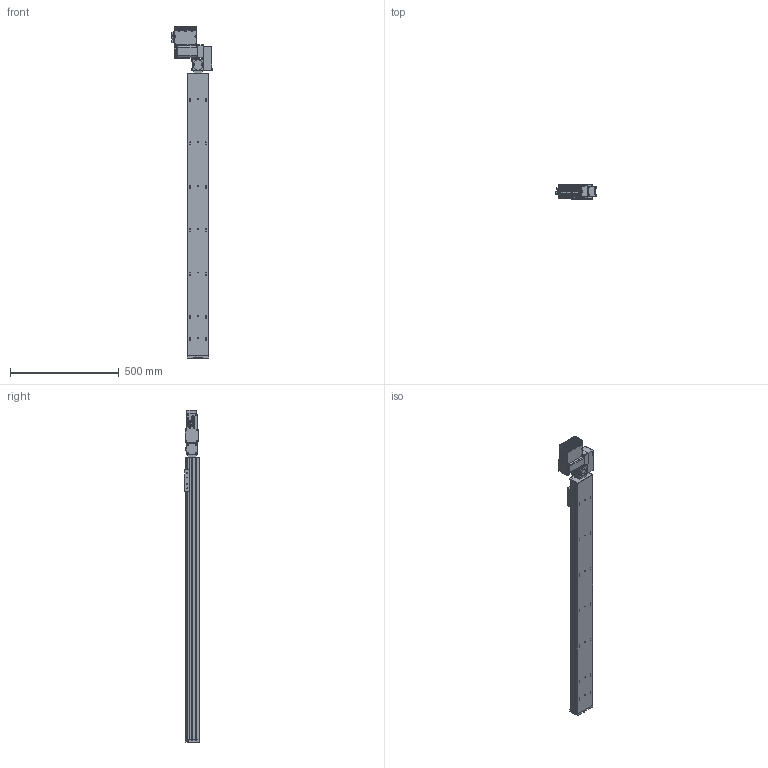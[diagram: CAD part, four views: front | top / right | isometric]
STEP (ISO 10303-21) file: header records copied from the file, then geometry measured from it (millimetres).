
FILE_DESCRIPTION (( 'STEP AP203' ), '1' );
FILE_NAME ('S10 TBN RH S1300.STEP', '2012-06-18T09:24:49', ( 'Conseil Régional Haute-Normandie' ), ( 'Conseil Régional Haute-Normandie' ), 'SwSTEP 2.0', 'SolidWorks 2010', '' );
FILE_SCHEMA (( 'CONFIG_CONTROL_DESIGN' ));
Length unit declared in the file: millimetre
Products named in the file (30): palette tbn; renvoi LH_Default; vis M5 L12_Default; vis M5 L5_Default; BU41 Carte Alimentation P05_3; Colonnette_3; Connecteur rond D10 3cts_5; Connecteur rond D12 4cts_5; Sub D 9cts 90_X2_00B_X0__3; Vis TF 3 torkx_1_1; Vis TF 3 torkx; S10 TBN RH S1300; axe 1300; embout; cache t皻e axe_Default; cache t皻e_Default; plaque de bout s10_Default; Plaque racord_Default; Cvis M5 L30_Default; Vis M5 L16-2_Default_1; Assem1_7; T_X2_00F4_X0_le contre le moteur_5; BU45 Carte d''axe A11_5; Moteur 60BLDC90A_3; Couvercle_3; T_X2_00F4_X0_le fond_3; Radiateur profil_X2_00E9_X0_ 100x25_3; Colonnette ronde_3; T_X2_00F4_X0_le Arri_X2_00E8_X0_re_5; T_X2_00F4_X0_le lat_X2_00E9_X0_rale_5
Assembly tree (69 placements, depth 3):
  S10 TBN RH S1300
    vis M5 L5_Default  x4
    Vis M5 L16-2_Default_1  x4
    Vis TF 3 torkx  x7
    cache t皻e_Default  x2
    vis M5 L12_Default  x4
    Cvis M5 L30_Default  x2
    axe 1300
    plaque de bout s10_Default
    Plaque racord_Default
    Assem1_7
      BU45 Carte d''axe A11_5
      Connecteur rond D12 4cts_5
      Sub D 9cts 90_X2_00B_X0__3
      Vis TF 3 torkx_1_1  x21
      Colonnette_3  x2
      Moteur 60BLDC90A_3
      Radiateur profil_X2_00E9_X0_ 100x25_3
      T_X2_00F4_X0_le Arri_X2_00E8_X0_re_5
      Couvercle_3
      BU41 Carte Alimentation P05_3
      Colonnette ronde_3
      T_X2_00F4_X0_le lat_X2_00E9_X0_rale_5  x2
      Connecteur rond D10 3cts_5  x2
      T_X2_00F4_X0_le contre le moteur_5
      T_X2_00F4_X0_le fond_3
    palette tbn
    embout
    cache t皻e axe_Default
    renvoi LH_Default
Bounding box: 189.8 x 66.75 x 1528.5 mm (x, y, z)
Volume: 7623702 mm3; surface area: 948183.6 mm2
Topology: 68 solids, 68 shells, 2511 faces, 6235 edges, 4023 vertices
Faces by surface type: plane 1211, cylinder 1061, cone 196, bspline 40, torus 3
Entity records: 49091 total; most frequent: CARTESIAN_POINT 8806, DIRECTION 7898, ORIENTED_EDGE 7174, EDGE_CURVE 3587, AXIS2_PLACEMENT_3D 2926, VERTEX_POINT 2339, VECTOR 2046, LINE 2046
